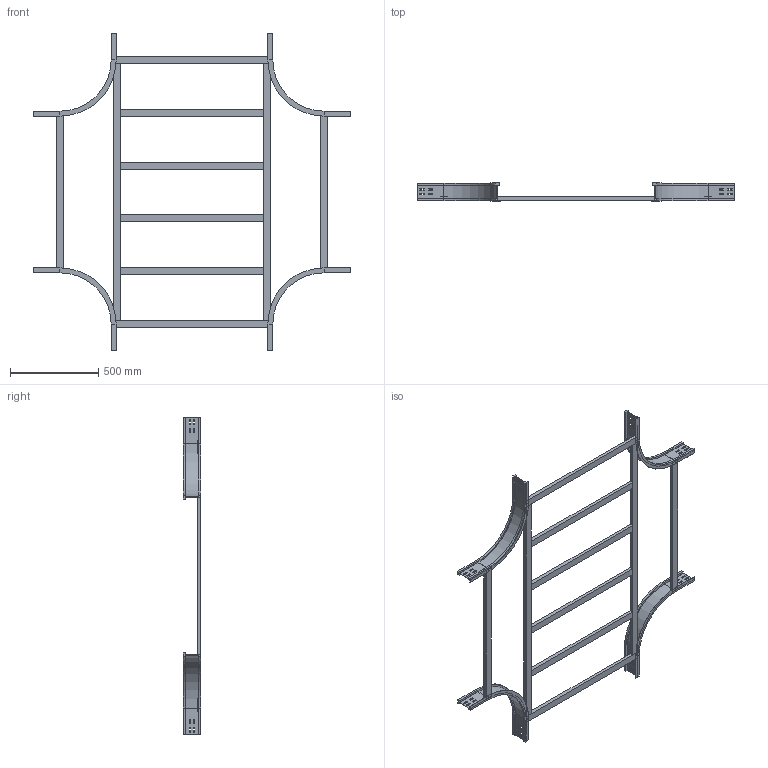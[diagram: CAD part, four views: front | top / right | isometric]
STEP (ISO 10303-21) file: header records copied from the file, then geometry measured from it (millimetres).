
FILE_DESCRIPTION (( 'STEP AP214' ), '1' );
FILE_NAME ('17S3D900.step', '2025-02-21T16:16:17', ( '' ), ( '' ), 'SwSTEP 2.0', 'SolidWorks 2023', '' );
FILE_SCHEMA (( 'AUTOMOTIVE_DESIGN' ));
Length unit declared in the file: millimetre
Products named in the file (5): TRAVERSINO_LONG._R300+900; TRAVERSINO_900; 17S3D900; LONGH.INTERNO 90°_H100_R300; TRAVERSINO_INTERMEDIO_X_R300+900
Assembly tree (14 placements, depth 2):
  17S3D900
    LONGH.INTERNO 90°_H100_R300  x4
    TRAVERSINO_900  x4
    TRAVERSINO_INTERMEDIO_X_R300+900  x4
    TRAVERSINO_LONG._R300+900  x2
Bounding box: 1800 x 100 x 1800 mm (x, y, z)
Volume: 9542084.2 mm3; surface area: 2110744.2 mm2
Topology: 14 solids, 14 shells, 340 faces, 840 edges, 528 vertices
Faces by surface type: plane 316, cylinder 24
Entity records: 2786 total; most frequent: CARTESIAN_POINT 457, DIRECTION 438, ORIENTED_EDGE 432, EDGE_CURVE 216, VECTOR 204, LINE 204, VERTEX_POINT 136, AXIS2_PLACEMENT_3D 117
